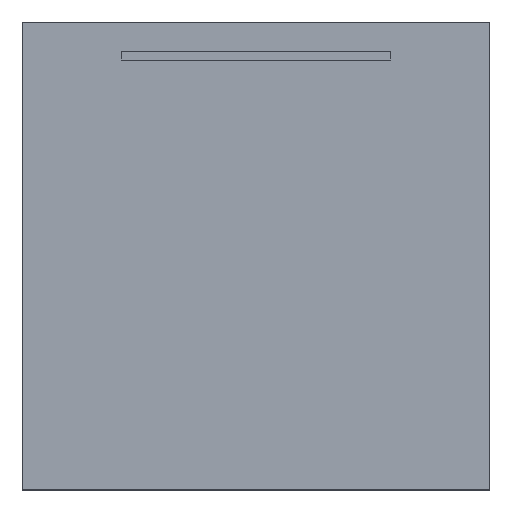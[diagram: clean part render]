
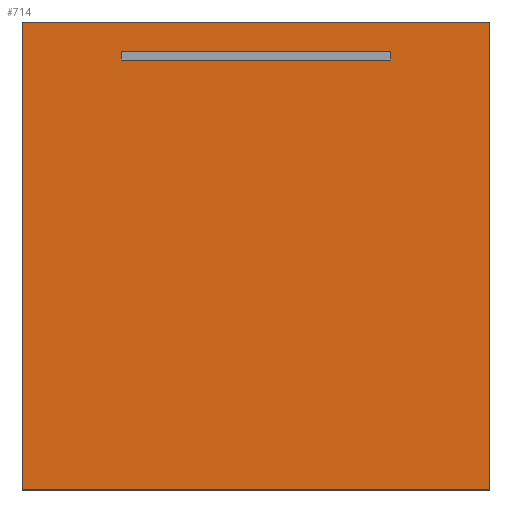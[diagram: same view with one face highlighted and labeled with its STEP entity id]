
A CAD part, top view. The second image highlights one B-rep face of the part: STEP entity #714.
In plain terms, the highlighted planar face has unit normal (0, 0, 1).
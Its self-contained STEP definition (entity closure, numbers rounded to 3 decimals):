
#73 = VECTOR ( 'NONE', #1094, 1000. ) ;
#81 = CARTESIAN_POINT ( 'NONE',  ( 230., 350., 4. ) ) ;
#95 = EDGE_CURVE ( 'NONE', #1786, #965, #258, .T. ) ;
#117 = VERTEX_POINT ( 'NONE', #784 ) ;
#138 = DIRECTION ( 'NONE',  ( 0., -1., 0. ) ) ;
#165 = AXIS2_PLACEMENT_3D ( 'NONE', #352, #1659, #920 ) ;
#194 = LINE ( 'NONE', #1713, #919 ) ;
#195 = VERTEX_POINT ( 'NONE', #1387 ) ;
#226 = EDGE_CURVE ( 'NONE', #1855, #569, #194, .T. ) ;
#247 = LINE ( 'NONE', #727, #786 ) ;
#258 = LINE ( 'NONE', #1395, #73 ) ;
#260 = ORIENTED_EDGE ( 'NONE', *, *, #837, .F. ) ;
#268 = LINE ( 'NONE', #1241, #971 ) ;
#273 = CARTESIAN_POINT ( 'NONE',  ( 0., -399.5, 4. ) ) ;
#280 = VERTEX_POINT ( 'NONE', #676 ) ;
#352 = CARTESIAN_POINT ( 'NONE',  ( 0., 0., 4. ) ) ;
#359 = FACE_OUTER_BOUND ( 'NONE', #1125, .T. ) ;
#386 = DIRECTION ( 'NONE',  ( -1., 0., 0. ) ) ;
#387 = CARTESIAN_POINT ( 'NONE',  ( -230., 335., 4. ) ) ;
#412 = EDGE_CURVE ( 'NONE', #965, #1409, #1396, .T. ) ;
#425 = VECTOR ( 'NONE', #1890, 1000. ) ;
#442 = CARTESIAN_POINT ( 'NONE',  ( 230., 350., 4. ) ) ;
#462 = EDGE_LOOP ( 'NONE', ( #1655, #1882, #1305, #260 ) ) ;
#509 = CARTESIAN_POINT ( 'NONE',  ( -230., 335., 4. ) ) ;
#569 = VERTEX_POINT ( 'NONE', #877 ) ;
#608 = LINE ( 'NONE', #81, #1252 ) ;
#676 = CARTESIAN_POINT ( 'NONE',  ( -399.5, -399.5, 4. ) ) ;
#714 = ADVANCED_FACE ( 'NONE', ( #1866, #359 ), #1230, .F. ) ;
#721 = VECTOR ( 'NONE', #861, 1000. ) ;
#727 = CARTESIAN_POINT ( 'NONE',  ( -399.5, 0., 4. ) ) ;
#772 = CARTESIAN_POINT ( 'NONE',  ( 399.5, -399.5, 4. ) ) ;
#784 = CARTESIAN_POINT ( 'NONE',  ( 230., 335., 4. ) ) ;
#786 = VECTOR ( 'NONE', #138, 1000. ) ;
#816 = EDGE_CURVE ( 'NONE', #569, #195, #268, .T. ) ;
#837 = EDGE_CURVE ( 'NONE', #117, #1786, #608, .T. ) ;
#851 = ORIENTED_EDGE ( 'NONE', *, *, #1187, .T. ) ;
#861 = DIRECTION ( 'NONE',  ( 1., 0., 0. ) ) ;
#877 = CARTESIAN_POINT ( 'NONE',  ( 399.5, 399.5, 4. ) ) ;
#919 = VECTOR ( 'NONE', #1259, 1000. ) ;
#920 = DIRECTION ( 'NONE',  ( -1., 0., 0. ) ) ;
#950 = VECTOR ( 'NONE', #1688, 1000. ) ;
#965 = VERTEX_POINT ( 'NONE', #1584 ) ;
#971 = VECTOR ( 'NONE', #386, 1000. ) ;
#1000 = ORIENTED_EDGE ( 'NONE', *, *, #226, .T. ) ;
#1094 = DIRECTION ( 'NONE',  ( -1., 0., 0. ) ) ;
#1103 = DIRECTION ( 'NONE',  ( 0., 1., 0. ) ) ;
#1125 = EDGE_LOOP ( 'NONE', ( #1000, #1658, #851, #1876 ) ) ;
#1187 = EDGE_CURVE ( 'NONE', #195, #280, #247, .T. ) ;
#1230 = PLANE ( 'NONE',  #165 ) ;
#1241 = CARTESIAN_POINT ( 'NONE',  ( 0., 399.5, 4. ) ) ;
#1252 = VECTOR ( 'NONE', #1103, 1000. ) ;
#1259 = DIRECTION ( 'NONE',  ( 0., 1., 0. ) ) ;
#1305 = ORIENTED_EDGE ( 'NONE', *, *, #95, .F. ) ;
#1345 = LINE ( 'NONE', #509, #950 ) ;
#1387 = CARTESIAN_POINT ( 'NONE',  ( -399.5, 399.5, 4. ) ) ;
#1395 = CARTESIAN_POINT ( 'NONE',  ( -230., 350., 4. ) ) ;
#1396 = LINE ( 'NONE', #1874, #425 ) ;
#1409 = VERTEX_POINT ( 'NONE', #387 ) ;
#1514 = EDGE_CURVE ( 'NONE', #1409, #117, #1345, .T. ) ;
#1555 = LINE ( 'NONE', #273, #721 ) ;
#1583 = EDGE_CURVE ( 'NONE', #280, #1855, #1555, .T. ) ;
#1584 = CARTESIAN_POINT ( 'NONE',  ( -230., 350., 4. ) ) ;
#1655 = ORIENTED_EDGE ( 'NONE', *, *, #1514, .F. ) ;
#1658 = ORIENTED_EDGE ( 'NONE', *, *, #816, .T. ) ;
#1659 = DIRECTION ( 'NONE',  ( 0., 0., -1. ) ) ;
#1688 = DIRECTION ( 'NONE',  ( 1., 0., 0. ) ) ;
#1713 = CARTESIAN_POINT ( 'NONE',  ( 399.5, 0., 4. ) ) ;
#1786 = VERTEX_POINT ( 'NONE', #442 ) ;
#1855 = VERTEX_POINT ( 'NONE', #772 ) ;
#1866 = FACE_BOUND ( 'NONE', #462, .T. ) ;
#1874 = CARTESIAN_POINT ( 'NONE',  ( -230., 350., 4. ) ) ;
#1876 = ORIENTED_EDGE ( 'NONE', *, *, #1583, .T. ) ;
#1882 = ORIENTED_EDGE ( 'NONE', *, *, #412, .F. ) ;
#1890 = DIRECTION ( 'NONE',  ( 0., -1., 0. ) ) ;
